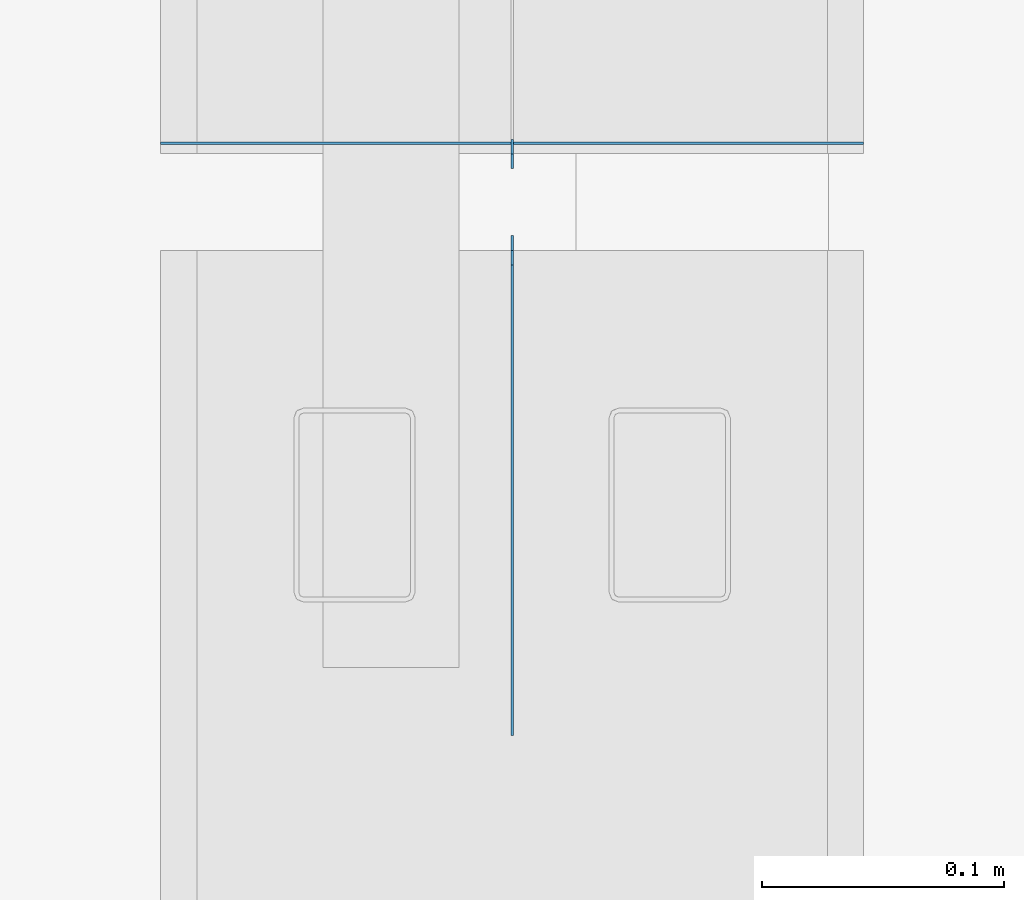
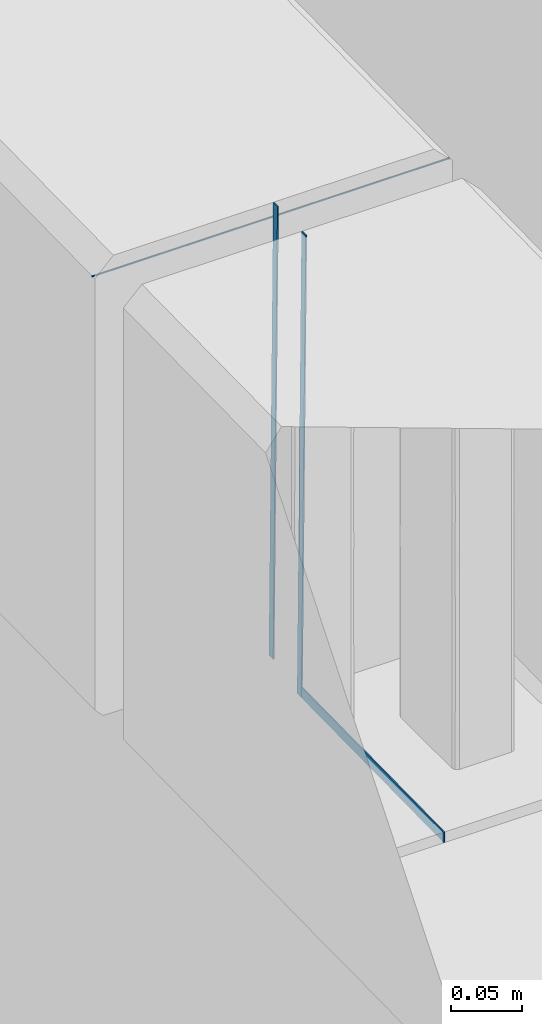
# One storey, part 49 of 186: 4 beams.
"""IFC4X3_ADD2 building model written with IfcOpenShell, lengths in millimetres."""

from ifc_helpers import new_model, si_unit, direction, frame, frame_2d, origin_with_axes, place, context, subcontext, project, spatial, rectangle, extrude, material, element, save


model = new_model("IFC4X3_ADD2")

# Units and contexts
model_context = context("Model", 3, precision=1e-05, world=origin_with_axes(), true_north=direction((0.0, 1.0)))
body_context = subcontext(model_context, "Body", "Model", "MODEL_VIEW")
ifc_project = project(units=[si_unit("LENGTHUNIT", "METRE", prefix="MILLI"), si_unit("AREAUNIT", "SQUARE_METRE"), si_unit("VOLUMEUNIT", "CUBIC_METRE"), si_unit("PLANEANGLEUNIT", "RADIAN"), si_unit("TIMEUNIT", "SECOND"), si_unit("MASSUNIT", "GRAM")], contexts=[model_context])

# Site, building, storey
site_placement = place(None, origin_with_axes())
site = spatial("IfcSite", under=ifc_project, at=site_placement, Name="Site", CompositionType="ELEMENT")
building_placement = place(site_placement, origin_with_axes())
building = spatial("IfcBuilding", under=site, at=building_placement, Name="IFC Building Story")
storey_placement = place(building_placement, frame((0.0, 0.0, 4370.0), z_axis=(0.0, 0.0, 1.0), x_axis=(1.0, 0.0, 0.0)))
storey = spatial("IfcBuildingStorey", under=building, at=storey_placement, Name="ETAGE 10 (1)", Elevation=4370.0)

# Beams
ifc_material_1 = material(Name="STEEL/Accessory_invisible 261")
beam_1_placement = place(storey_placement, frame((48361.6886988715, 21639.820279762, 3083.09319676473), z_axis=(-1.0, 0.0, 0.0), x_axis=(0.0, -0.01553280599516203, 0.9998793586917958)))
element("IfcBeam", 1, at=beam_1_placement, inside=storey, material=ifc_material_1, Name="BEK4", ObjectType="6*1", context=body_context, shape_type="SweptSolid", body=[
    extrude(rectangle(XDim=392.000000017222, YDim=6.0, at=frame_2d((0.0, 5.95523630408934e-12), x_axis=(1.0, 0.0))), origin_with_axes(), (0.0, 0.0, 1.0), 1.0),
])
beam_2_placement = place(storey_placement, frame((48360.68869927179, 21500.0364287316, 2881.36847244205), z_axis=(1.0, 0.0, 0.0), x_axis=(0.0, -0.01553751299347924, 0.9998792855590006)))
element("IfcBeam", 2, at=beam_2_placement, inside=storey, material=ifc_material_1, Name="BEK4", ObjectType="9*1", context=body_context, shape_type="SweptSolid", body=[
    extrude(rectangle(XDim=9.00000000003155, YDim=200.238018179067, at=frame_2d((0.0, 5.95523630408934e-12), x_axis=(1.0, 0.0))), origin_with_axes(), (0.0, 0.0, 1.0), 1.0),
])
beam_3_placement = place(storey_placement, frame((48361.6886988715, 21600.1056235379, 3078.44707496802), z_axis=(-1.0, 0.0, 0.0), x_axis=(0.0, -0.01553280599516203, 0.9998793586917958)))
element("IfcBeam", 3, at=beam_3_placement, inside=storey, material=ifc_material_1, Name="BEK4", ObjectType="6*1 3", context=body_context, shape_type="SweptSolid", body=[
    extrude(rectangle(XDim=400.000000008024, YDim=6.00000000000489, at=frame_2d((0.0, 5.95523630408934e-12), x_axis=(1.0, 0.0))), origin_with_axes(), (0.0, 0.0, 1.0), 1.0),
])
ifc_material_2 = material(Name="STEEL/Accessory_invisible")
beam_4_placement = place(storey_placement, frame((48506.08869887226, 21644.1444014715, 3263.682075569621), z_axis=(-1.0, 0.0, 0.0), x_axis=(0.0, 1.0, 0.0)))
element("IfcBeam", 4, at=beam_4_placement, inside=storey, material=ifc_material_2, Name="ZW3", ObjectType="1*1 3", context=body_context, shape_type="SweptSolid", body=[
    extrude(rectangle(XDim=0.9999999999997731, YDim=0.9999999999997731, at=frame_2d((0.0, 5.95523630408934e-12), x_axis=(1.0, 0.0))), origin_with_axes(), (0.0, 0.0, 1.0), 289.9000000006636),
])

save(model, "model.ifc")
